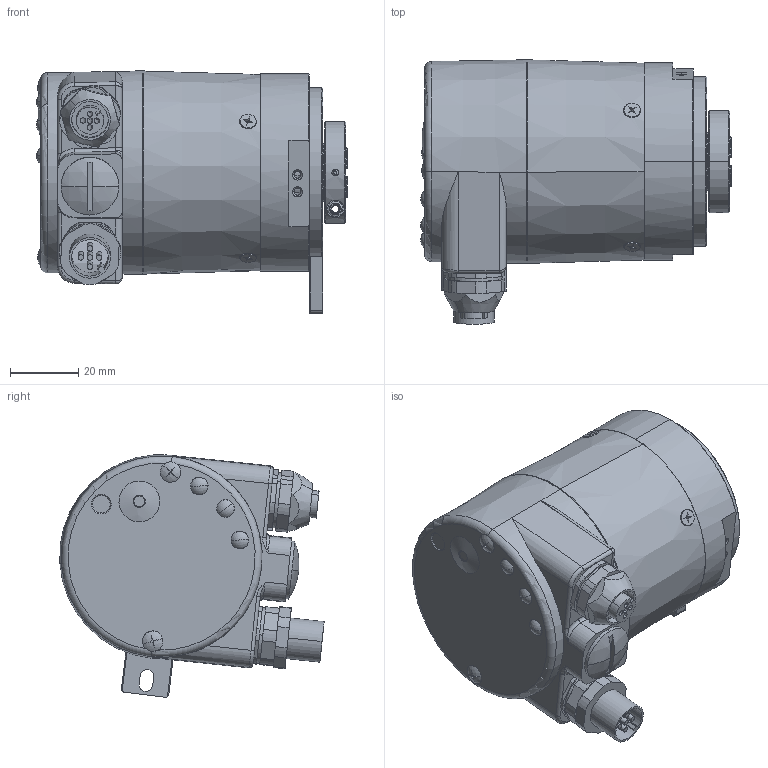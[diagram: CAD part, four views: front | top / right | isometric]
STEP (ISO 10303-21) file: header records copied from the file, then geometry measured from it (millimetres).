
FILE_DESCRIPTION (( 'STEP AP214' ), '1' );
FILE_NAME ('5888.1422.XXXX.STEP', '2008-07-04T05:30:49', ( 'admin' ), ( 'Fritz Kübler GmbH' ), 'SwSTEP 2.0', 'SolidWorks 2007', '' );
FILE_SCHEMA (( 'AUTOMOTIVE_DESIGN' ));
Length unit declared in the file: millimetre
Products named in the file (1): 5888.1422.XXXX
Bounding box: 91.4 x 77.69 x 71.26 mm (x, y, z)
Surface area: 32711.6 mm2 (no closed solid volume)
Topology: 0 solids, 29 shells, 480 faces, 1339 edges, 879 vertices
Faces by surface type: plane 206, cylinder 177, cone 61, torus 15, sphere 13, bspline 8
Entity records: 21526 total; most frequent: CARTESIAN_POINT 3796, DIRECTION 2735, ORIENTED_EDGE 2394, EDGE_CURVE 1334, AXIS2_PLACEMENT_3D 1018, VERTEX_POINT 879, VECTOR 699, LINE 699
